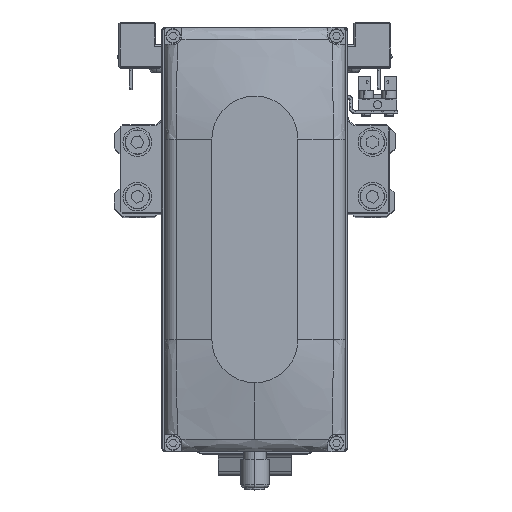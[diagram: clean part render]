
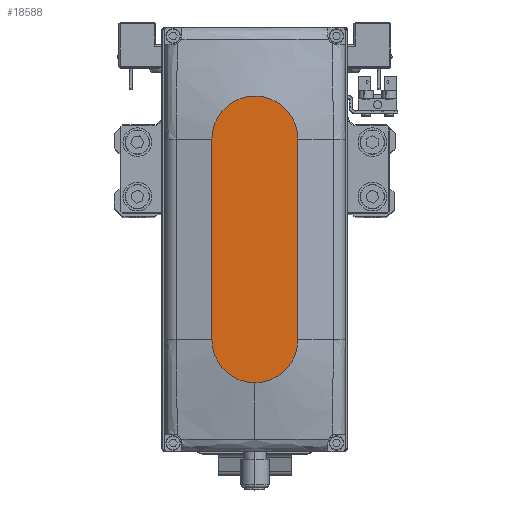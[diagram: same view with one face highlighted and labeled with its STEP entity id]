
A CAD part, top view. The second image highlights one B-rep face of the part: STEP entity #18588.
In plain terms, the highlighted planar face has unit normal (0, 0, 1).
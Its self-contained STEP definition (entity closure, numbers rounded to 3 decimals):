
#150 = CARTESIAN_POINT ( 'NONE',  ( -35., -15., 35. ) ) ;
#2653 = DIRECTION ( 'NONE',  ( 1., 0., 0. ) ) ;
#2739 = CIRCLE ( 'NONE', #24752, 15. ) ;
#3283 = EDGE_CURVE ( 'NONE', #28077, #34562, #8680, .T. ) ;
#5604 = PLANE ( 'NONE',  #35509 ) ;
#8680 = LINE ( 'NONE', #20703, #29634 ) ;
#9292 = DIRECTION ( 'NONE',  ( 0., 0., 1. ) ) ;
#9790 = CARTESIAN_POINT ( 'NONE',  ( -35., -15., 35. ) ) ;
#11356 = EDGE_CURVE ( 'NONE', #31871, #12381, #2739, .T. ) ;
#11878 = CARTESIAN_POINT ( 'NONE',  ( 50., 0., 35. ) ) ;
#12191 = DIRECTION ( 'NONE',  ( 1., 0., 0. ) ) ;
#12381 = VERTEX_POINT ( 'NONE', #11878 ) ;
#12498 = EDGE_CURVE ( 'NONE', #34562, #23763, #35523, .T. ) ;
#12645 = CARTESIAN_POINT ( 'NONE',  ( -35., 0., 35. ) ) ;
#13475 = CARTESIAN_POINT ( 'NONE',  ( 35., 0., 35. ) ) ;
#14605 = EDGE_CURVE ( 'NONE', #12381, #28077, #32211, .T. ) ;
#15267 = AXIS2_PLACEMENT_3D ( 'NONE', #13475, #25457, #37464 ) ;
#17223 = VECTOR ( 'NONE', #12191, 1000. ) ;
#17656 = CARTESIAN_POINT ( 'NONE',  ( 0., 0., 35. ) ) ;
#18560 = AXIS2_PLACEMENT_3D ( 'NONE', #12645, #24645, #36655 ) ;
#18588 = ADVANCED_FACE ( 'NONE', ( #32583 ), #5604, .T. ) ;
#19235 = CARTESIAN_POINT ( 'NONE',  ( 35., 15., 35. ) ) ;
#20703 = CARTESIAN_POINT ( 'NONE',  ( -35., 15., 35. ) ) ;
#20965 = ORIENTED_EDGE ( 'NONE', *, *, #23676, .T. ) ;
#21311 = DIRECTION ( 'NONE',  ( 1., 0., 0. ) ) ;
#23676 = EDGE_CURVE ( 'NONE', #23763, #31871, #27120, .T. ) ;
#23763 = VERTEX_POINT ( 'NONE', #9790 ) ;
#24109 = ORIENTED_EDGE ( 'NONE', *, *, #3283, .T. ) ;
#24645 = DIRECTION ( 'NONE',  ( 0., 0., 1. ) ) ;
#24675 = ORIENTED_EDGE ( 'NONE', *, *, #12498, .T. ) ;
#24752 = AXIS2_PLACEMENT_3D ( 'NONE', #36258, #9292, #21311 ) ;
#25457 = DIRECTION ( 'NONE',  ( 0., 0., 1. ) ) ;
#27120 = LINE ( 'NONE', #150, #17223 ) ;
#27975 = CARTESIAN_POINT ( 'NONE',  ( 35., -15., 35. ) ) ;
#28077 = VERTEX_POINT ( 'NONE', #19235 ) ;
#28829 = EDGE_LOOP ( 'NONE', ( #24109, #24675, #20965, #34584, #33525 ) ) ;
#29619 = DIRECTION ( 'NONE',  ( 0., 0., 1. ) ) ;
#29634 = VECTOR ( 'NONE', #32698, 1000. ) ;
#31871 = VERTEX_POINT ( 'NONE', #27975 ) ;
#32211 = CIRCLE ( 'NONE', #15267, 15. ) ;
#32583 = FACE_OUTER_BOUND ( 'NONE', #28829, .T. ) ;
#32698 = DIRECTION ( 'NONE',  ( -1., 0., 0. ) ) ;
#33525 = ORIENTED_EDGE ( 'NONE', *, *, #14605, .T. ) ;
#34562 = VERTEX_POINT ( 'NONE', #36590 ) ;
#34584 = ORIENTED_EDGE ( 'NONE', *, *, #11356, .T. ) ;
#35509 = AXIS2_PLACEMENT_3D ( 'NONE', #17656, #29619, #2653 ) ;
#35523 = CIRCLE ( 'NONE', #18560, 15. ) ;
#36258 = CARTESIAN_POINT ( 'NONE',  ( 35., 0., 35. ) ) ;
#36590 = CARTESIAN_POINT ( 'NONE',  ( -35., 15., 35. ) ) ;
#36655 = DIRECTION ( 'NONE',  ( 1., 0., 0. ) ) ;
#37464 = DIRECTION ( 'NONE',  ( 1., 0., 0. ) ) ;
